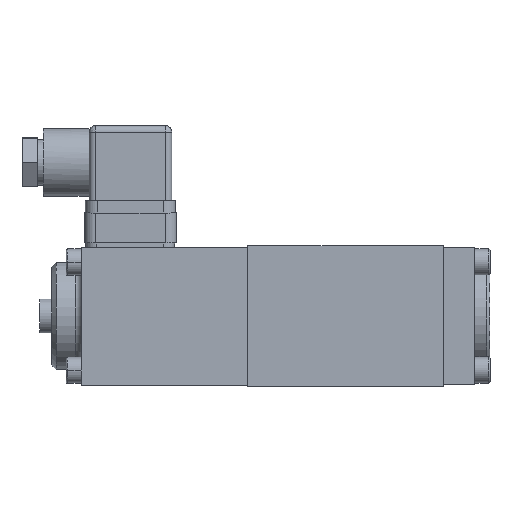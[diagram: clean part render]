
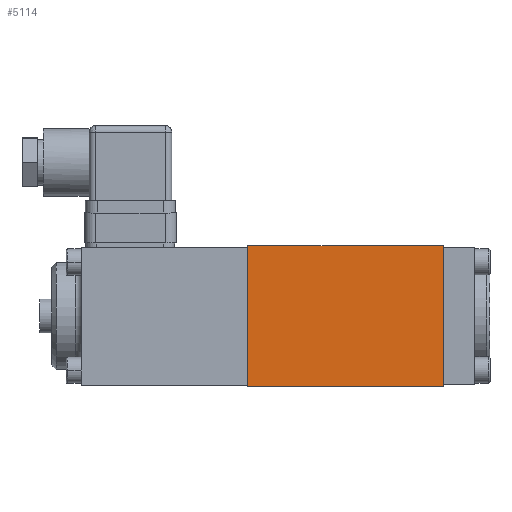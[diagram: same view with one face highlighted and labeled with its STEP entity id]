
A CAD part, top view. The second image highlights one B-rep face of the part: STEP entity #5114.
In plain terms, the highlighted planar face has unit normal (0, 0, 1).
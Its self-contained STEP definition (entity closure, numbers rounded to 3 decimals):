
#2093 = CARTESIAN_POINT ( 'NONE',  ( 0., -23., 23. ) ) ;
#2239 = VECTOR ( 'NONE', #7196, 1000. ) ;
#2395 = LINE ( 'NONE', #7126, #2239 ) ;
#4188 = DIRECTION ( 'NONE',  ( -1., 0., 0. ) ) ;
#4953 = ORIENTED_EDGE ( 'NONE', *, *, #20562, .F. ) ;
#5114 = ADVANCED_FACE ( 'NONE', ( #17202 ), #6968, .F. ) ;
#5287 = DIRECTION ( 'NONE',  ( 0., 0., -1. ) ) ;
#5303 = VECTOR ( 'NONE', #4188, 1000. ) ;
#6441 = LINE ( 'NONE', #29942, #11428 ) ;
#6968 = PLANE ( 'NONE',  #30936 ) ;
#7126 = CARTESIAN_POINT ( 'NONE',  ( 64., -23., 23. ) ) ;
#7129 = VERTEX_POINT ( 'NONE', #2093 ) ;
#7184 = ORIENTED_EDGE ( 'NONE', *, *, #31809, .F. ) ;
#7196 = DIRECTION ( 'NONE',  ( 0., -1., 0. ) ) ;
#7382 = ORIENTED_EDGE ( 'NONE', *, *, #9329, .T. ) ;
#8161 = EDGE_LOOP ( 'NONE', ( #7382, #7184, #4953, #16675 ) ) ;
#9329 = EDGE_CURVE ( 'NONE', #30966, #7129, #6441, .T. ) ;
#11428 = VECTOR ( 'NONE', #32347, 1000. ) ;
#11524 = LINE ( 'NONE', #31610, #5303 ) ;
#12378 = VERTEX_POINT ( 'NONE', #32226 ) ;
#14525 = VERTEX_POINT ( 'NONE', #14673 ) ;
#14673 = CARTESIAN_POINT ( 'NONE',  ( 64., 23., 23. ) ) ;
#15626 = EDGE_CURVE ( 'NONE', #14525, #30966, #25639, .T. ) ;
#16675 = ORIENTED_EDGE ( 'NONE', *, *, #15626, .T. ) ;
#17022 = DIRECTION ( 'NONE',  ( -1., 0., 0. ) ) ;
#17202 = FACE_OUTER_BOUND ( 'NONE', #8161, .T. ) ;
#17245 = CARTESIAN_POINT ( 'NONE',  ( 64., 23., 23. ) ) ;
#20562 = EDGE_CURVE ( 'NONE', #14525, #12378, #2395, .T. ) ;
#25550 = VECTOR ( 'NONE', #17022, 1000. ) ;
#25639 = LINE ( 'NONE', #17245, #25550 ) ;
#27064 = CARTESIAN_POINT ( 'NONE',  ( 64., -23., 23. ) ) ;
#29942 = CARTESIAN_POINT ( 'NONE',  ( 0., -23., 23. ) ) ;
#30936 = AXIS2_PLACEMENT_3D ( 'NONE', #27064, #5287, #31480 ) ;
#30966 = VERTEX_POINT ( 'NONE', #32613 ) ;
#31480 = DIRECTION ( 'NONE',  ( -1., 0., 0. ) ) ;
#31610 = CARTESIAN_POINT ( 'NONE',  ( 64., -23., 23. ) ) ;
#31809 = EDGE_CURVE ( 'NONE', #12378, #7129, #11524, .T. ) ;
#32226 = CARTESIAN_POINT ( 'NONE',  ( 64., -23., 23. ) ) ;
#32347 = DIRECTION ( 'NONE',  ( 0., -1., 0. ) ) ;
#32613 = CARTESIAN_POINT ( 'NONE',  ( 0., 23., 23. ) ) ;
